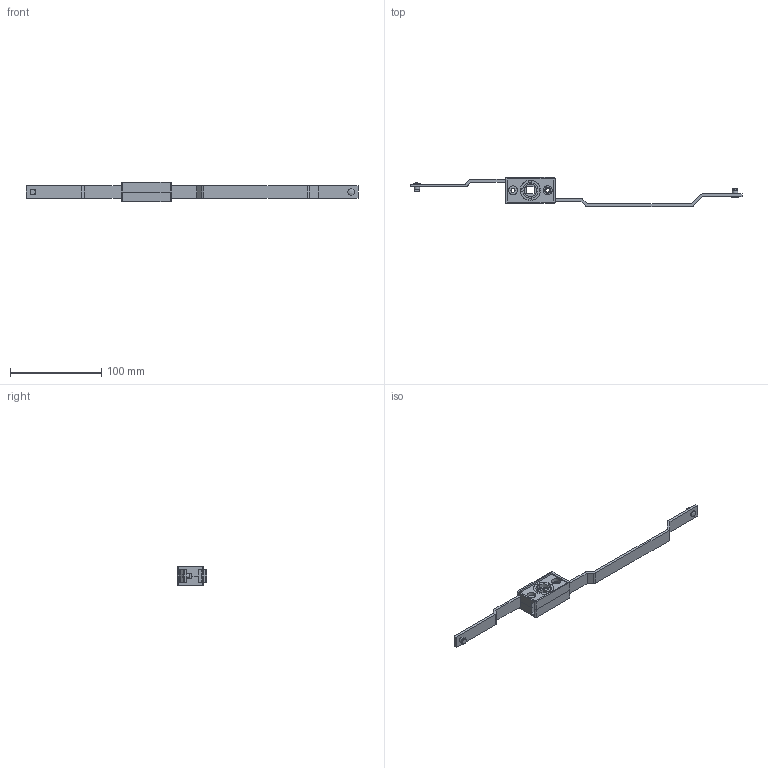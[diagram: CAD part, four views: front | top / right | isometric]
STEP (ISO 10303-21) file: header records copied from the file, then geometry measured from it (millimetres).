
FILE_DESCRIPTION (( 'STEP AP214' ), '1' );
FILE_NAME ('MZ2K.STEP', '2010-03-03T16:49:19', ( '£ukaszC' ), ( '' ), 'SwSTEP 2.0', 'SolidWorks 2008', '' );
FILE_SCHEMA (( 'AUTOMOTIVE_DESIGN' ));
Length unit declared in the file: millimetre
Products named in the file (6): 1C.MZ2.03.01.00_Domyœlna_Domyœlna; 1C.MZ1.01.00.00_frezowanie fi23_Domyœlna; KWADRAT_Domyœlna_Domyœlna; MZ2K; 1C.MZ2.04.01.00_Domyœlna_Domyœlna; 1C.MZ1.02.00.1_Domyœlna
Assembly tree (7 placements, depth 2):
  MZ2K
    1C.MZ2.04.01.00_Domyœlna_Domyœlna
    1C.MZ1.02.00.1_Domyœlna
    1C.MZ1.01.00.00_frezowanie fi23_Domyœlna  x2
    1C.MZ2.03.01.00_Domyœlna_Domyœlna
    KWADRAT_Domyœlna_Domyœlna  x2
Bounding box: 363.45 x 32.15 x 21.4 mm (x, y, z)
Volume: 30237.9 mm3; surface area: 30301.4 mm2
Topology: 7 solids, 7 shells, 390 faces, 1105 edges, 731 vertices
Faces by surface type: plane 224, cylinder 126, cone 38, bspline 2
Entity records: 9356 total; most frequent: CARTESIAN_POINT 1771, ORIENTED_EDGE 1562, DIRECTION 1548, EDGE_CURVE 781, AXIS2_PLACEMENT_3D 526, VERTEX_POINT 517, VECTOR 496, LINE 496
